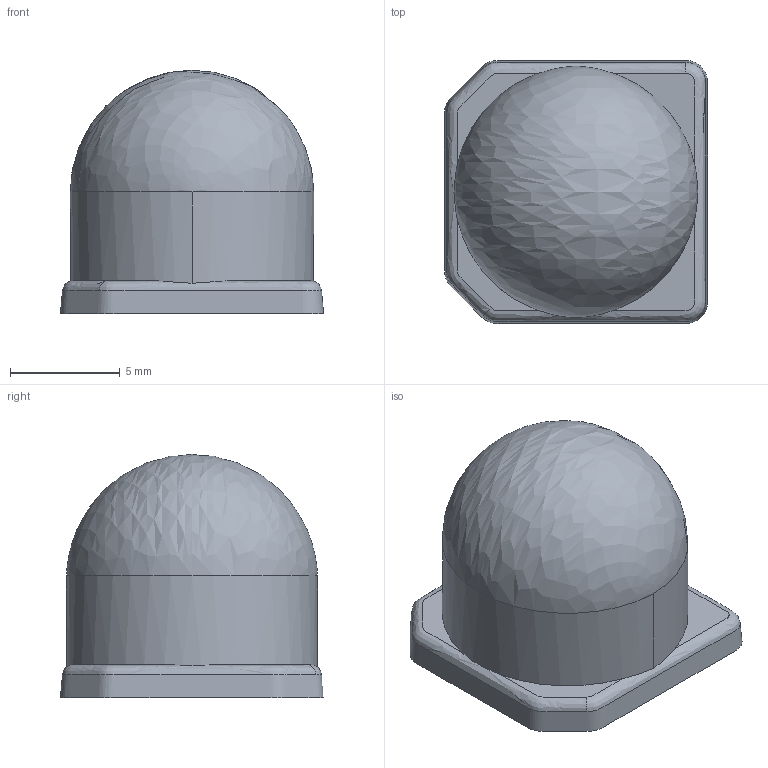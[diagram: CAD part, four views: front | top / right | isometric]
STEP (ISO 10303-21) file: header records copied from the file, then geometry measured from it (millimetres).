
FILE_DESCRIPTION(/* description */ (''),/* implementation_level */ '2;1');
FILE_NAME(/* name */ '260227_(お客様提示用参考モデル)NCSU033B集光8°製品形状',/* time_stamp */ '2026-02-27T11:32:16+09:00',/* author */ (''),/* organization */ (''),/* preprocessor_version */ 'ST-DEVELOPER v19.2',/* originating_system */ 'Rhino 8.21',/* authorisation */ '');
FILE_SCHEMA (('AP242_MANAGED_MODEL_BASED_3D_ENGINEERING_MIM_LF { 1 0 10303 442 3 1 4 }'));
Length unit declared in the file: millimetre
Products named in the file (1): Document
Bounding box: 12 x 12 x 11.1 mm (x, y, z)
Volume: 895.6 mm3; surface area: 604.4 mm2
Topology: 1 solids, 1 shells, 36 faces, 85 edges, 51 vertices
Faces by surface type: plane 22, bspline 12, cylinder 2
Entity records: 1776 total; most frequent: CARTESIAN_POINT 1194, ORIENTED_EDGE 158, EDGE_CURVE 79, DIRECTION 48, VERTEX_POINT 46, EDGE_LOOP 37, B_SPLINE_CURVE_WITH_KNOTS 37, ADVANCED_FACE 36
